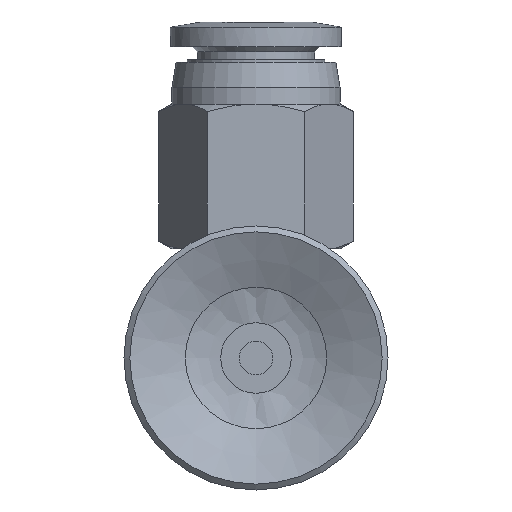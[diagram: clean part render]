
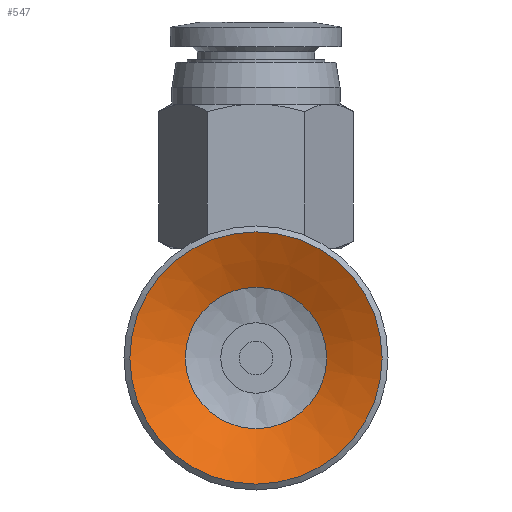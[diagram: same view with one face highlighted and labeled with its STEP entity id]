
A CAD part, front view. The second image highlights one B-rep face of the part: STEP entity #547.
In plain terms, the highlighted conical face has half-angle 65.056 degrees and reference radius 3.2 mm.
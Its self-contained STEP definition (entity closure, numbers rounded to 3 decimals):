
#547=ADVANCED_FACE('',(#839,#840),#841,.F.);
#839=FACE_BOUND('',#1232,.T.);
#840=FACE_OUTER_BOUND('',#1233,.T.);
#841=CONICAL_SURFACE('',#1234,3.2,1.135);
#1232=EDGE_LOOP('',(#2249));
#1233=EDGE_LOOP('',(#2250));
#1234=AXIS2_PLACEMENT_3D('',#2251,#2252,#2253);
#2249=ORIENTED_EDGE('',*,*,#2792,.T.);
#2250=ORIENTED_EDGE('',*,*,#2793,.T.);
#2251=CARTESIAN_POINT('',(0.0,7.896,0.0));
#2252=DIRECTION('',(-0.0,-1.0,0.));
#2253=DIRECTION('',(0.0,0.,-1.0));
#2792=EDGE_CURVE('',#3172,#3172,#3173,.T.);
#2793=EDGE_CURVE('',#3174,#3174,#3175,.T.);
#3172=VERTEX_POINT('',#4010);
#3173=CIRCLE('',#4011,4.203);
#3174=VERTEX_POINT('',#4012);
#3175=CIRCLE('',#4013,7.5);
#4010=CARTESIAN_POINT('',(0.0,7.43,-4.203));
#4011=AXIS2_PLACEMENT_3D('',#4753,#4754,#4755);
#4012=CARTESIAN_POINT('',(0.0,5.896,-7.5));
#4013=AXIS2_PLACEMENT_3D('',#4756,#4757,#4758);
#4753=CARTESIAN_POINT('',(0.0,7.43,0.0));
#4754=DIRECTION('',(0.0,1.0,0.));
#4755=DIRECTION('',(0.0,0.,-1.0));
#4756=CARTESIAN_POINT('',(0.0,5.896,0.0));
#4757=DIRECTION('',(0.0,-1.0,0.));
#4758=DIRECTION('',(0.0,0.,-1.0));
